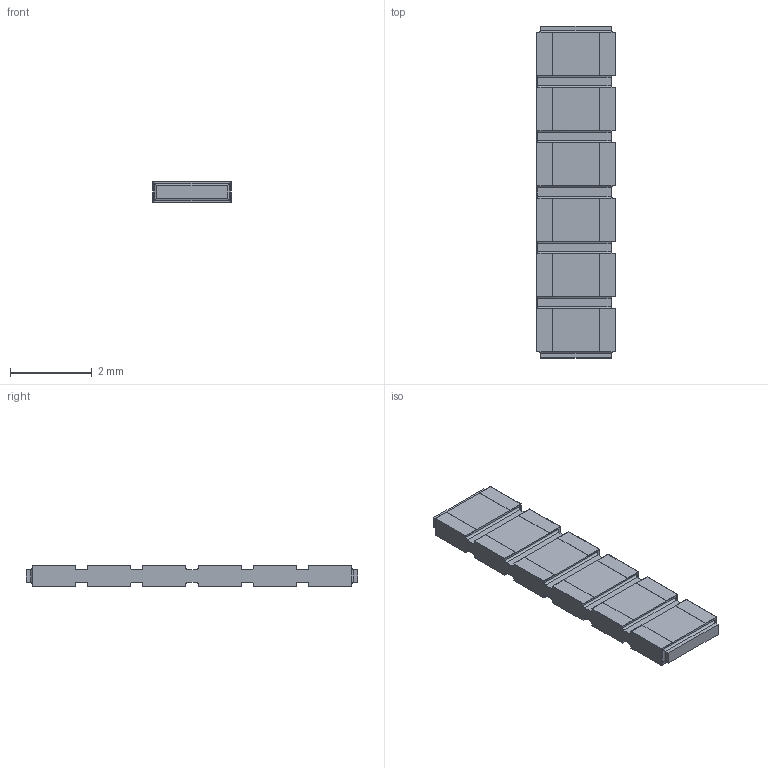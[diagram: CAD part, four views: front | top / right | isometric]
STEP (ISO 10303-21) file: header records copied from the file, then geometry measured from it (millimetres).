
FILE_DESCRIPTION(/* description */ (''),/* implementation_level */ '2;1');
FILE_NAME(/* name */ 'S:\DOCUMENT\AUTOCAD\3D_Modèles\10_3D-pour-VISHAY-COM\PRA\PRA135\PRA135-C2_à_C8\10_IGES\PRA135C6_B-or-N-or-G.stp',/* time_stamp */ '2017-12-18T12:03:42+01:00',/* author */ ('dparmentier'),/* organization */ ('unknown'),/* preprocessor_version */ 'ST-DEVELOPER v17',/* originating_system */ 'Autodesk Inventor 2018',/* authorisation */ '');
FILE_SCHEMA (('AUTOMOTIVE_DESIGN { 1 0 10303 214 3 1 1 }'));
Length unit declared in the file: millimetre
Products named in the file (1): PRA135C6_B-or-N-or-G
Bounding box: 1.91 x 8.1 x 0.5 mm (x, y, z)
Volume: 6.9 mm3; surface area: 75.1 mm2
Topology: 8 solids, 8 shells, 244 faces, 650 edges, 424 vertices
Faces by surface type: plane 186, cylinder 58
Entity records: 7524 total; most frequent: CARTESIAN_POINT 1319, ORIENTED_EDGE 1300, DIRECTION 1228, EDGE_CURVE 650, LINE 562, VECTOR 562, VERTEX_POINT 424, AXIS2_PLACEMENT_3D 333
